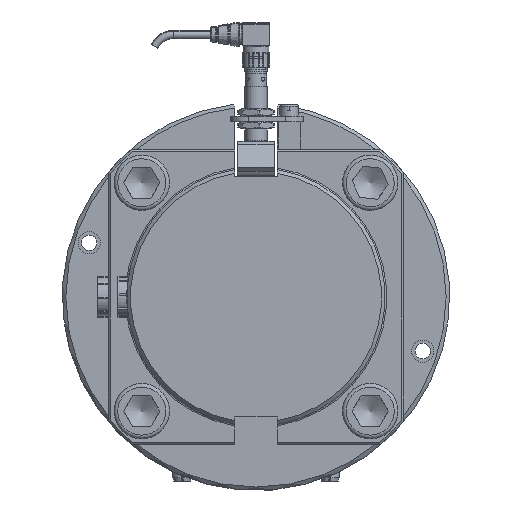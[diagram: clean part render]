
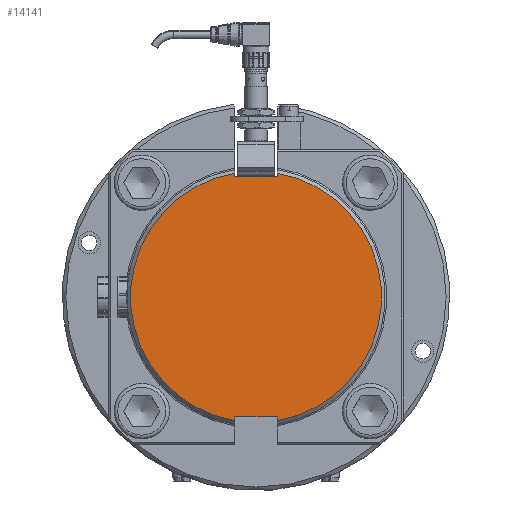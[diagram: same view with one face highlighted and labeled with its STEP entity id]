
A CAD part, left-side view. The second image highlights one B-rep face of the part: STEP entity #14141.
In plain terms, the highlighted planar face has unit normal (-1, 0, 0).
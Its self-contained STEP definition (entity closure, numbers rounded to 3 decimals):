
#1434=CIRCLE('',#15335,68.);
#1435=CIRCLE('',#15336,68.);
#2386=FACE_OUTER_BOUND('',#3442,.T.);
#3442=EDGE_LOOP('',(#10438,#10439,#10440,#10441,#10442,#10443,#10444,#10445));
#4656=LINE('',#24278,#5421);
#4674=LINE('',#24354,#5439);
#4698=LINE('',#24466,#5463);
#4712=LINE('',#24517,#5477);
#4715=LINE('',#24639,#5480);
#4717=LINE('',#24642,#5482);
#5421=VECTOR('',#17854,2.021);
#5439=VECTOR('',#17886,2.021);
#5463=VECTOR('',#17938,2.021);
#5477=VECTOR('',#17956,2.021);
#5480=VECTOR('',#18023,23.);
#5482=VECTOR('',#18027,23.);
#6352=VERTEX_POINT('',#24273);
#6353=VERTEX_POINT('',#24277);
#6374=VERTEX_POINT('',#24351);
#6375=VERTEX_POINT('',#24353);
#6401=VERTEX_POINT('',#24461);
#6402=VERTEX_POINT('',#24465);
#6416=VERTEX_POINT('',#24514);
#6417=VERTEX_POINT('',#24516);
#7836=EDGE_CURVE('',#6353,#6352,#4656,.T.);
#7864=EDGE_CURVE('',#6375,#6374,#4674,.T.);
#7903=EDGE_CURVE('',#6402,#6401,#4698,.T.);
#7922=EDGE_CURVE('',#6417,#6416,#4712,.T.);
#7950=EDGE_CURVE('',#6374,#6402,#4715,.T.);
#7952=EDGE_CURVE('',#6416,#6353,#4717,.T.);
#7954=EDGE_CURVE('',#6417,#6401,#1434,.T.);
#7955=EDGE_CURVE('',#6375,#6352,#1435,.T.);
#10438=ORIENTED_EDGE('',*,*,#7864,.T.);
#10439=ORIENTED_EDGE('',*,*,#7950,.T.);
#10440=ORIENTED_EDGE('',*,*,#7903,.T.);
#10441=ORIENTED_EDGE('',*,*,#7954,.F.);
#10442=ORIENTED_EDGE('',*,*,#7922,.T.);
#10443=ORIENTED_EDGE('',*,*,#7952,.T.);
#10444=ORIENTED_EDGE('',*,*,#7836,.T.);
#10445=ORIENTED_EDGE('',*,*,#7955,.F.);
#12673=PLANE('',#15334);
#14141=ADVANCED_FACE('',(#2386),#12673,.T.);
#15334=AXIS2_PLACEMENT_3D('',#24644,#18029,#18030);
#15335=AXIS2_PLACEMENT_3D('',#24645,#18031,#18032);
#15336=AXIS2_PLACEMENT_3D('',#24646,#18033,#18034);
#17854=DIRECTION('',(0.,0.,1.));
#17886=DIRECTION('',(0.,0.,1.));
#17938=DIRECTION('',(0.,0.,-1.));
#17956=DIRECTION('',(0.,0.,-1.));
#18023=DIRECTION('',(0.,-1.,0.));
#18027=DIRECTION('',(0.,1.,0.));
#18029=DIRECTION('center_axis',(-1.,0.,0.));
#18030=DIRECTION('ref_axis',(0.,0.,1.));
#18031=DIRECTION('center_axis',(1.,0.,0.));
#18032=DIRECTION('ref_axis',(0.,-1.,0.));
#18033=DIRECTION('center_axis',(1.,0.,0.));
#18034=DIRECTION('ref_axis',(0.,-1.,0.));
#24273=CARTESIAN_POINT('',(0.,11.5,67.021));
#24277=CARTESIAN_POINT('',(0.,11.5,65.));
#24278=CARTESIAN_POINT('',(0.,11.5,32.5));
#24351=CARTESIAN_POINT('',(0.,11.5,-65.));
#24353=CARTESIAN_POINT('',(0.,11.5,-67.021));
#24354=CARTESIAN_POINT('',(0.,11.5,-40.));
#24461=CARTESIAN_POINT('',(0.,-11.5,-67.021));
#24465=CARTESIAN_POINT('',(0.,-11.5,-65.));
#24466=CARTESIAN_POINT('',(0.,-11.5,-32.5));
#24514=CARTESIAN_POINT('',(0.,-11.5,65.));
#24516=CARTESIAN_POINT('',(0.,-11.5,67.021));
#24517=CARTESIAN_POINT('',(0.,-11.5,40.));
#24639=CARTESIAN_POINT('',(0.,23.25,-65.));
#24642=CARTESIAN_POINT('',(0.,11.75,65.));
#24644=CARTESIAN_POINT('Origin',(0.,35.,0.));
#24645=CARTESIAN_POINT('Origin',(0.,0.,
0.));
#24646=CARTESIAN_POINT('Origin',(0.,0.,
0.));
